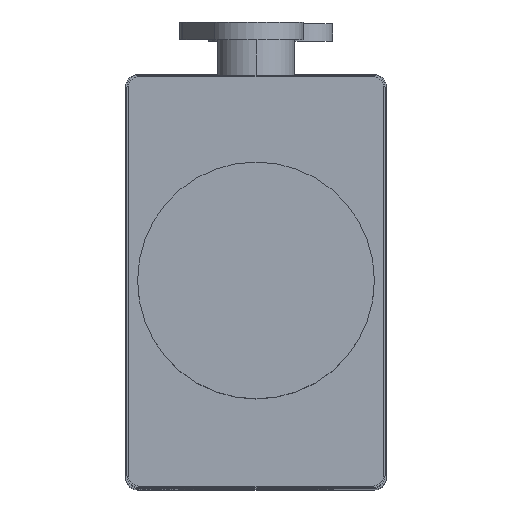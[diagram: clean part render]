
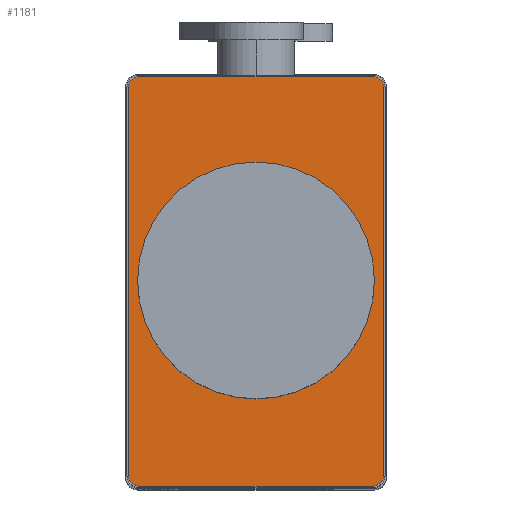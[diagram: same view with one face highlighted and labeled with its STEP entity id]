
A CAD part, top view. The second image highlights one B-rep face of the part: STEP entity #1181.
In plain terms, the highlighted planar face has unit normal (0, 0, 1).
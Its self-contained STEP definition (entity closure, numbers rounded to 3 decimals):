
#94 = EDGE_CURVE ( 'NONE', #3694, #1782, #2493, .T. ) ;
#115 = ORIENTED_EDGE ( 'NONE', *, *, #2174, .T. ) ;
#117 = DIRECTION ( 'NONE',  ( -1., 0., 0. ) ) ;
#186 = DIRECTION ( 'NONE',  ( 0., 0., 1. ) ) ;
#190 = LINE ( 'NONE', #1944, #346 ) ;
#218 = DIRECTION ( 'NONE',  ( -1., 0., 0. ) ) ;
#246 = DIRECTION ( 'NONE',  ( 0., -1., 0. ) ) ;
#341 = CARTESIAN_POINT ( 'NONE',  ( -9.8, 17.3, 74.2 ) ) ;
#346 = VECTOR ( 'NONE', #117, 1000. ) ;
#365 = EDGE_CURVE ( 'NONE', #2315, #2837, #3406, .T. ) ;
#372 = VERTEX_POINT ( 'NONE', #622 ) ;
#400 = ORIENTED_EDGE ( 'NONE', *, *, #2679, .F. ) ;
#465 = CARTESIAN_POINT ( 'NONE',  ( -9.8, 16.3, 74.2 ) ) ;
#514 = CIRCLE ( 'NONE', #559, 1. ) ;
#526 = CIRCLE ( 'NONE', #2387, 1. ) ;
#556 = CARTESIAN_POINT ( 'NONE',  ( -10.8, 16.3, 74.2 ) ) ;
#559 = AXIS2_PLACEMENT_3D ( 'NONE', #1483, #2345, #218 ) ;
#585 = CARTESIAN_POINT ( 'NONE',  ( 0., 0., 74.2 ) ) ;
#622 = CARTESIAN_POINT ( 'NONE',  ( -10.8, -16.3, 74.2 ) ) ;
#638 = CARTESIAN_POINT ( 'NONE',  ( -4.65, 0., 74.2 ) ) ;
#665 = AXIS2_PLACEMENT_3D ( 'NONE', #585, #900, #3953 ) ;
#702 = DIRECTION ( 'NONE',  ( 1., 0., 0. ) ) ;
#769 = LINE ( 'NONE', #2455, #1409 ) ;
#847 = DIRECTION ( 'NONE',  ( -1., 0., 0. ) ) ;
#870 = CIRCLE ( 'NONE', #3697, 1. ) ;
#875 = LINE ( 'NONE', #556, #3152 ) ;
#900 = DIRECTION ( 'NONE',  ( 0., 0., 1. ) ) ;
#928 = CARTESIAN_POINT ( 'NONE',  ( 10.8, 16.3, 74.2 ) ) ;
#935 = DIRECTION ( 'NONE',  ( 0., 1., 0. ) ) ;
#953 = AXIS2_PLACEMENT_3D ( 'NONE', #1733, #1990, #1718 ) ;
#1041 = VERTEX_POINT ( 'NONE', #3341 ) ;
#1042 = EDGE_CURVE ( 'NONE', #1782, #3694, #1661, .T. ) ;
#1122 = CARTESIAN_POINT ( 'NONE',  ( 4.65, 0., 74.2 ) ) ;
#1181 = ADVANCED_FACE ( 'PLANAR_2', ( #3114, #2093 ), #3109, .T. ) ;
#1260 = CARTESIAN_POINT ( 'NONE',  ( -9.8, -16.3, 74.2 ) ) ;
#1288 = DIRECTION ( 'NONE',  ( 0., 0., 1. ) ) ;
#1356 = EDGE_CURVE ( 'NONE', #1041, #2315, #2388, .T. ) ;
#1381 = ORIENTED_EDGE ( 'NONE', *, *, #365, .T. ) ;
#1409 = VECTOR ( 'NONE', #702, 1000. ) ;
#1483 = CARTESIAN_POINT ( 'NONE',  ( -9.8, -16.3, 74.2 ) ) ;
#1525 = DIRECTION ( 'NONE',  ( 1., 0., 0. ) ) ;
#1548 = CARTESIAN_POINT ( 'NONE',  ( 10.8, -16.3, 74.2 ) ) ;
#1623 = EDGE_LOOP ( 'NONE', ( #3166, #115, #2706, #3836, #3147, #1381, #400, #2255 ) ) ;
#1636 = VERTEX_POINT ( 'NONE', #3692 ) ;
#1661 = CIRCLE ( 'NONE', #665, 4.65 ) ;
#1718 = DIRECTION ( 'NONE',  ( -1., 0., 0. ) ) ;
#1733 = CARTESIAN_POINT ( 'NONE',  ( 9.8, -16.3, 74.2 ) ) ;
#1782 = VERTEX_POINT ( 'NONE', #638 ) ;
#1944 = CARTESIAN_POINT ( 'NONE',  ( 9.8, 17.3, 74.2 ) ) ;
#1990 = DIRECTION ( 'NONE',  ( 0., 0., 1. ) ) ;
#1996 = CARTESIAN_POINT ( 'NONE',  ( -9.8, -17.3, 74.2 ) ) ;
#2049 = EDGE_CURVE ( 'NONE', #2509, #1041, #769, .T. ) ;
#2093 = FACE_OUTER_BOUND ( 'NONE', #1623, .T. ) ;
#2117 = AXIS2_PLACEMENT_3D ( 'NONE', #1260, #1288, #3699 ) ;
#2140 = CARTESIAN_POINT ( 'NONE',  ( 0., 0., 74.2 ) ) ;
#2174 = EDGE_CURVE ( 'NONE', #1636, #372, #875, .T. ) ;
#2255 = ORIENTED_EDGE ( 'NONE', *, *, #3865, .T. ) ;
#2315 = VERTEX_POINT ( 'NONE', #1548 ) ;
#2345 = DIRECTION ( 'NONE',  ( 0., 0., 1. ) ) ;
#2387 = AXIS2_PLACEMENT_3D ( 'NONE', #3592, #2704, #847 ) ;
#2388 = CIRCLE ( 'NONE', #953, 1. ) ;
#2455 = CARTESIAN_POINT ( 'NONE',  ( -9.8, -17.3, 74.2 ) ) ;
#2461 = VERTEX_POINT ( 'NONE', #341 ) ;
#2493 = CIRCLE ( 'NONE', #2748, 4.65 ) ;
#2509 = VERTEX_POINT ( 'NONE', #1996 ) ;
#2679 = EDGE_CURVE ( 'NONE', #3279, #2837, #526, .T. ) ;
#2704 = DIRECTION ( 'NONE',  ( 0., 0., -1. ) ) ;
#2706 = ORIENTED_EDGE ( 'NONE', *, *, #3622, .T. ) ;
#2748 = AXIS2_PLACEMENT_3D ( 'NONE', #2140, #3081, #1525 ) ;
#2837 = VERTEX_POINT ( 'NONE', #928 ) ;
#2977 = EDGE_LOOP ( 'NONE', ( #3875, #3548 ) ) ;
#3081 = DIRECTION ( 'NONE',  ( 0., 0., 1. ) ) ;
#3109 = PLANE ( 'NONE',  #2117 ) ;
#3114 = FACE_BOUND ( 'NONE', #2977, .T. ) ;
#3136 = EDGE_CURVE ( 'NONE', #2461, #1636, #870, .T. ) ;
#3147 = ORIENTED_EDGE ( 'NONE', *, *, #1356, .T. ) ;
#3152 = VECTOR ( 'NONE', #246, 1000. ) ;
#3166 = ORIENTED_EDGE ( 'NONE', *, *, #3136, .T. ) ;
#3279 = VERTEX_POINT ( 'NONE', #3888 ) ;
#3341 = CARTESIAN_POINT ( 'NONE',  ( 9.8, -17.3, 74.2 ) ) ;
#3406 = LINE ( 'NONE', #3423, #3413 ) ;
#3413 = VECTOR ( 'NONE', #935, 1000. ) ;
#3423 = CARTESIAN_POINT ( 'NONE',  ( 10.8, -16.3, 74.2 ) ) ;
#3548 = ORIENTED_EDGE ( 'NONE', *, *, #1042, .F. ) ;
#3592 = CARTESIAN_POINT ( 'NONE',  ( 9.8, 16.3, 74.2 ) ) ;
#3622 = EDGE_CURVE ( 'NONE', #372, #2509, #514, .T. ) ;
#3692 = CARTESIAN_POINT ( 'NONE',  ( -10.8, 16.3, 74.2 ) ) ;
#3694 = VERTEX_POINT ( 'NONE', #1122 ) ;
#3697 = AXIS2_PLACEMENT_3D ( 'NONE', #465, #186, #3817 ) ;
#3699 = DIRECTION ( 'NONE',  ( 1., 0., 0. ) ) ;
#3817 = DIRECTION ( 'NONE',  ( -1., 0., 0. ) ) ;
#3836 = ORIENTED_EDGE ( 'NONE', *, *, #2049, .T. ) ;
#3865 = EDGE_CURVE ( 'NONE', #3279, #2461, #190, .T. ) ;
#3875 = ORIENTED_EDGE ( 'NONE', *, *, #94, .F. ) ;
#3888 = CARTESIAN_POINT ( 'NONE',  ( 9.8, 17.3, 74.2 ) ) ;
#3953 = DIRECTION ( 'NONE',  ( 1., 0., 0. ) ) ;
